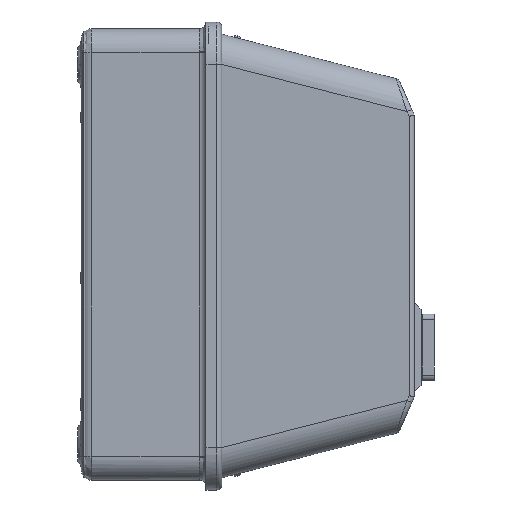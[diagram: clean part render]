
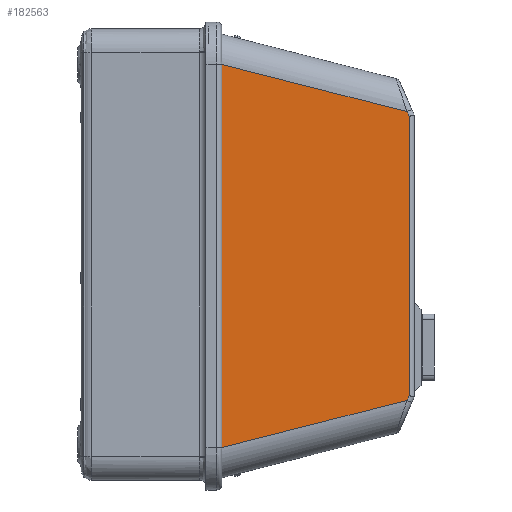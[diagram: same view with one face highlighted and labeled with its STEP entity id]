
A CAD part, front view. The second image highlights one B-rep face of the part: STEP entity #182563.
In plain terms, the highlighted planar face has unit normal (0, -1, 0).
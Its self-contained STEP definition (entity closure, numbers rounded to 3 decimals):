
#174985 = VERTEX_POINT('',#174986);
#174986 = CARTESIAN_POINT('',(156.44,-32.099,
    -54.922));
#174994 = CYLINDRICAL_SURFACE('',#174995,2.);
#174995 = AXIS2_PLACEMENT_3D('',#174996,#174997,#174998);
#174996 = CARTESIAN_POINT('',(151.388,-30.099,
    -66.288));
#174997 = DIRECTION('',(-0.406,0.,
    -0.914));
#174998 = DIRECTION('',(0.914,0.,
    -0.406));
#175095 = VERTEX_POINT('',#175096);
#175096 = CARTESIAN_POINT('',(157.216,-32.099,
    -53.176));
#175133 = CYLINDRICAL_SURFACE('',#175134,2.);
#175134 = AXIS2_PLACEMENT_3D('',#175135,#175136,#175137);
#175135 = CARTESIAN_POINT('',(157.216,-30.099,-0.6));
#175136 = DIRECTION('',(0.,0.,1.));
#175137 = DIRECTION('',(0.,-1.,0.));
#175167 = EDGE_CURVE('',#175095,#174985,#175168,.T.);
#175168 = SURFACE_CURVE('',#175169,(#175173,#175180),.PCURVE_S1.);
#175169 = LINE('',#175170,#175171);
#175170 = CARTESIAN_POINT('',(157.216,-32.099,
    -53.176));
#175171 = VECTOR('',#175172,1.);
#175172 = DIRECTION('',(-0.406,0.,
    -0.914));
#175173 = PCURVE('',#174994,#175174);
#175174 = DEFINITIONAL_REPRESENTATION('',(#175175),#175179);
#175175 = LINE('',#175176,#175177);
#175176 = CARTESIAN_POINT('',(1.571,-14.349));
#175177 = VECTOR('',#175178,1.);
#175178 = DIRECTION('',(0.,1.));
#175179 = ( GEOMETRIC_REPRESENTATION_CONTEXT(2) 
PARAMETRIC_REPRESENTATION_CONTEXT() REPRESENTATION_CONTEXT('2D SPACE',''
  ) );
#175180 = PCURVE('',#175181,#175186);
#175181 = PLANE('',#175182);
#175182 = AXIS2_PLACEMENT_3D('',#175183,#175184,#175185);
#175183 = CARTESIAN_POINT('',(86.716,-32.099,-0.6));
#175184 = DIRECTION('',(0.,1.,0.));
#175185 = DIRECTION('',(0.,0.,1.));
#175186 = DEFINITIONAL_REPRESENTATION('',(#175187),#175191);
#175187 = LINE('',#175188,#175189);
#175188 = CARTESIAN_POINT('',(-52.576,70.5));
#175189 = VECTOR('',#175190,1.);
#175190 = DIRECTION('',(-0.914,-0.406));
#175191 = ( GEOMETRIC_REPRESENTATION_CONTEXT(2) 
PARAMETRIC_REPRESENTATION_CONTEXT() REPRESENTATION_CONTEXT('2D SPACE',''
  ) );
#175196 = EDGE_CURVE('',#175197,#175095,#175199,.T.);
#175197 = VERTEX_POINT('',#175198);
#175198 = CARTESIAN_POINT('',(157.216,-32.099,
    51.976));
#175199 = SURFACE_CURVE('',#175200,(#175204,#175211),.PCURVE_S1.);
#175200 = LINE('',#175201,#175202);
#175201 = CARTESIAN_POINT('',(157.216,-32.099,-0.6));
#175202 = VECTOR('',#175203,1.);
#175203 = DIRECTION('',(0.,0.,-1.));
#175204 = PCURVE('',#175133,#175205);
#175205 = DEFINITIONAL_REPRESENTATION('',(#175206),#175210);
#175206 = LINE('',#175207,#175208);
#175207 = CARTESIAN_POINT('',(0.,0.));
#175208 = VECTOR('',#175209,1.);
#175209 = DIRECTION('',(0.,-1.));
#175210 = ( GEOMETRIC_REPRESENTATION_CONTEXT(2) 
PARAMETRIC_REPRESENTATION_CONTEXT() REPRESENTATION_CONTEXT('2D SPACE',''
  ) );
#175211 = PCURVE('',#175181,#175212);
#175212 = DEFINITIONAL_REPRESENTATION('',(#175213),#175217);
#175213 = LINE('',#175214,#175215);
#175214 = CARTESIAN_POINT('',(0.,70.5));
#175215 = VECTOR('',#175216,1.);
#175216 = DIRECTION('',(-1.,0.));
#175217 = ( GEOMETRIC_REPRESENTATION_CONTEXT(2) 
PARAMETRIC_REPRESENTATION_CONTEXT() REPRESENTATION_CONTEXT('2D SPACE',''
  ) );
#175285 = CYLINDRICAL_SURFACE('',#175286,2.);
#175286 = AXIS2_PLACEMENT_3D('',#175287,#175288,#175289);
#175287 = CARTESIAN_POINT('',(151.388,-30.099,
    65.088));
#175288 = DIRECTION('',(0.406,0.,
    -0.914));
#175289 = DIRECTION('',(0.914,0.,0.406)
  );
#180824 = VERTEX_POINT('',#180825);
#180825 = CARTESIAN_POINT('',(156.44,-32.099,
    53.722));
#180902 = EDGE_CURVE('',#180824,#175197,#180903,.T.);
#180903 = SURFACE_CURVE('',#180904,(#180908,#180915),.PCURVE_S1.);
#180904 = LINE('',#180905,#180906);
#180905 = CARTESIAN_POINT('',(156.44,-32.099,
    53.722));
#180906 = VECTOR('',#180907,1.);
#180907 = DIRECTION('',(0.406,0.,
    -0.914));
#180908 = PCURVE('',#175285,#180909);
#180909 = DEFINITIONAL_REPRESENTATION('',(#180910),#180914);
#180910 = LINE('',#180911,#180912);
#180911 = CARTESIAN_POINT('',(1.571,12.438));
#180912 = VECTOR('',#180913,1.);
#180913 = DIRECTION('',(0.,1.));
#180914 = ( GEOMETRIC_REPRESENTATION_CONTEXT(2) 
PARAMETRIC_REPRESENTATION_CONTEXT() REPRESENTATION_CONTEXT('2D SPACE',''
  ) );
#180915 = PCURVE('',#175181,#180916);
#180916 = DEFINITIONAL_REPRESENTATION('',(#180917),#180921);
#180917 = LINE('',#180918,#180919);
#180918 = CARTESIAN_POINT('',(54.322,69.724));
#180919 = VECTOR('',#180920,1.);
#180920 = DIRECTION('',(-0.914,0.406));
#180921 = ( GEOMETRIC_REPRESENTATION_CONTEXT(2) 
PARAMETRIC_REPRESENTATION_CONTEXT() REPRESENTATION_CONTEXT('2D SPACE',''
  ) );
#181264 = CYLINDRICAL_SURFACE('',#181265,11.);
#181265 = AXIS2_PLACEMENT_3D('',#181266,#181267,#181268);
#181266 = CARTESIAN_POINT('',(104.028,-21.099,
    -68.321));
#181267 = DIRECTION('',(0.969,0.,
    0.248));
#181268 = DIRECTION('',(-0.248,0.,
    0.969));
#181979 = PLANE('',#181980);
#181980 = AXIS2_PLACEMENT_3D('',#181981,#181982,#181983);
#181981 = CARTESIAN_POINT('',(86.716,48.983,
    -83.975));
#181982 = DIRECTION('',(1.,0.,0.));
#181983 = DIRECTION('',(0.,0.,1.));
#182563 = ADVANCED_FACE('',(#182564),#175181,.F.);
#182564 = FACE_BOUND('',#182565,.T.);
#182565 = EDGE_LOOP('',(#182566,#182567,#182595,#182618,#182639,#182640)
  );
#182566 = ORIENTED_EDGE('',*,*,#180902,.F.);
#182567 = ORIENTED_EDGE('',*,*,#182568,.F.);
#182568 = EDGE_CURVE('',#182569,#180824,#182571,.T.);
#182569 = VERTEX_POINT('',#182570);
#182570 = CARTESIAN_POINT('',(86.716,-32.099,
    71.546));
#182571 = SURFACE_CURVE('',#182572,(#182576,#182583),.PCURVE_S1.);
#182572 = LINE('',#182573,#182574);
#182573 = CARTESIAN_POINT('',(104.028,-32.099,
    67.121));
#182574 = VECTOR('',#182575,1.);
#182575 = DIRECTION('',(0.969,0.,
    -0.248));
#182576 = PCURVE('',#175181,#182577);
#182577 = DEFINITIONAL_REPRESENTATION('',(#182578),#182582);
#182578 = LINE('',#182579,#182580);
#182579 = CARTESIAN_POINT('',(67.721,17.312));
#182580 = VECTOR('',#182581,1.);
#182581 = DIRECTION('',(-0.248,0.969));
#182582 = ( GEOMETRIC_REPRESENTATION_CONTEXT(2) 
PARAMETRIC_REPRESENTATION_CONTEXT() REPRESENTATION_CONTEXT('2D SPACE',''
  ) );
#182583 = PCURVE('',#182584,#182589);
#182584 = CYLINDRICAL_SURFACE('',#182585,11.);
#182585 = AXIS2_PLACEMENT_3D('',#182586,#182587,#182588);
#182586 = CARTESIAN_POINT('',(104.028,-21.099,
    67.121));
#182587 = DIRECTION('',(-0.969,0.,
    0.248));
#182588 = DIRECTION('',(-0.248,0.,
    -0.969));
#182589 = DEFINITIONAL_REPRESENTATION('',(#182590),#182594);
#182590 = LINE('',#182591,#182592);
#182591 = CARTESIAN_POINT('',(1.571,0.));
#182592 = VECTOR('',#182593,1.);
#182593 = DIRECTION('',(0.,-1.));
#182594 = ( GEOMETRIC_REPRESENTATION_CONTEXT(2) 
PARAMETRIC_REPRESENTATION_CONTEXT() REPRESENTATION_CONTEXT('2D SPACE',''
  ) );
#182595 = ORIENTED_EDGE('',*,*,#182596,.F.);
#182596 = EDGE_CURVE('',#182597,#182569,#182599,.T.);
#182597 = VERTEX_POINT('',#182598);
#182598 = CARTESIAN_POINT('',(86.716,-32.099,
    -72.746));
#182599 = SURFACE_CURVE('',#182600,(#182604,#182611),.PCURVE_S1.);
#182600 = LINE('',#182601,#182602);
#182601 = CARTESIAN_POINT('',(86.716,-32.099,
    -83.975));
#182602 = VECTOR('',#182603,1.);
#182603 = DIRECTION('',(0.,0.,1.));
#182604 = PCURVE('',#175181,#182605);
#182605 = DEFINITIONAL_REPRESENTATION('',(#182606),#182610);
#182606 = LINE('',#182607,#182608);
#182607 = CARTESIAN_POINT('',(-83.375,0.));
#182608 = VECTOR('',#182609,1.);
#182609 = DIRECTION('',(1.,0.));
#182610 = ( GEOMETRIC_REPRESENTATION_CONTEXT(2) 
PARAMETRIC_REPRESENTATION_CONTEXT() REPRESENTATION_CONTEXT('2D SPACE',''
  ) );
#182611 = PCURVE('',#181979,#182612);
#182612 = DEFINITIONAL_REPRESENTATION('',(#182613),#182617);
#182613 = LINE('',#182614,#182615);
#182614 = CARTESIAN_POINT('',(0.,81.082));
#182615 = VECTOR('',#182616,1.);
#182616 = DIRECTION('',(1.,0.));
#182617 = ( GEOMETRIC_REPRESENTATION_CONTEXT(2) 
PARAMETRIC_REPRESENTATION_CONTEXT() REPRESENTATION_CONTEXT('2D SPACE',''
  ) );
#182618 = ORIENTED_EDGE('',*,*,#182619,.F.);
#182619 = EDGE_CURVE('',#174985,#182597,#182620,.T.);
#182620 = SURFACE_CURVE('',#182621,(#182625,#182632),.PCURVE_S1.);
#182621 = LINE('',#182622,#182623);
#182622 = CARTESIAN_POINT('',(104.028,-32.099,
    -68.321));
#182623 = VECTOR('',#182624,1.);
#182624 = DIRECTION('',(-0.969,0.,
    -0.248));
#182625 = PCURVE('',#175181,#182626);
#182626 = DEFINITIONAL_REPRESENTATION('',(#182627),#182631);
#182627 = LINE('',#182628,#182629);
#182628 = CARTESIAN_POINT('',(-67.721,17.312));
#182629 = VECTOR('',#182630,1.);
#182630 = DIRECTION('',(-0.248,-0.969));
#182631 = ( GEOMETRIC_REPRESENTATION_CONTEXT(2) 
PARAMETRIC_REPRESENTATION_CONTEXT() REPRESENTATION_CONTEXT('2D SPACE',''
  ) );
#182632 = PCURVE('',#181264,#182633);
#182633 = DEFINITIONAL_REPRESENTATION('',(#182634),#182638);
#182634 = LINE('',#182635,#182636);
#182635 = CARTESIAN_POINT('',(1.571,0.));
#182636 = VECTOR('',#182637,1.);
#182637 = DIRECTION('',(0.,-1.));
#182638 = ( GEOMETRIC_REPRESENTATION_CONTEXT(2) 
PARAMETRIC_REPRESENTATION_CONTEXT() REPRESENTATION_CONTEXT('2D SPACE',''
  ) );
#182639 = ORIENTED_EDGE('',*,*,#175167,.F.);
#182640 = ORIENTED_EDGE('',*,*,#175196,.F.);
